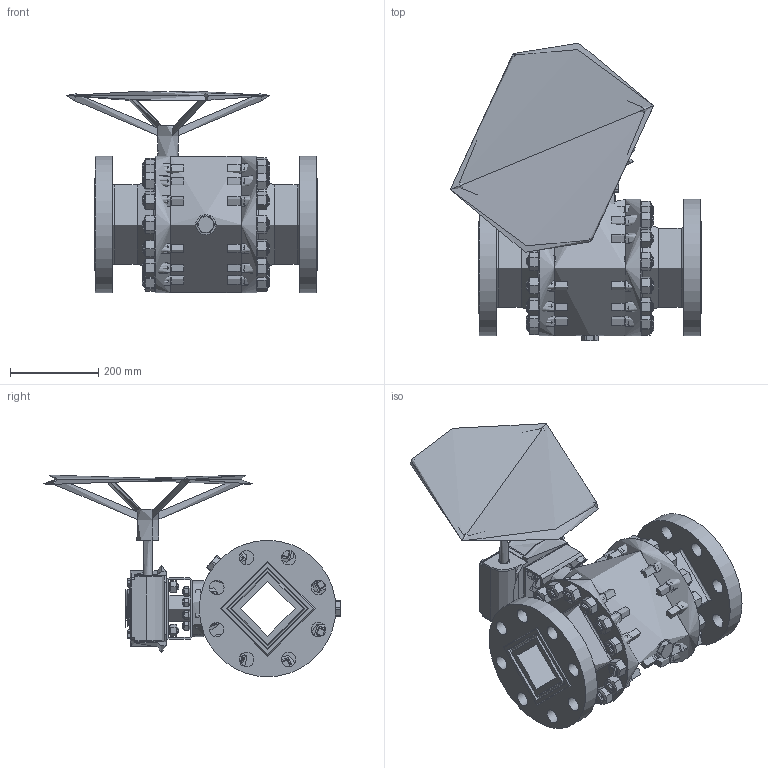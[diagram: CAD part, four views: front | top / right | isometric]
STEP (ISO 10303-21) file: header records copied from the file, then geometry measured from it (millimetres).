
FILE_DESCRIPTION(('STEP AP203'), '1');
FILE_NAME('ZARDP 125.100.27.P.stp', '2013-12-06T13:12:39', ($), ($), 'ASCON STEP Converter 1.3', 'Kompas 3D', '');
FILE_SCHEMA(('CONFIG_CONTROL_DESIGN','SUPPORT_RESOURCE_SCHEMA'));
Length unit declared in the file: millimetre
Products named in the file (1): 53
Bounding box: 571.06 x 675.28 x 458 mm (x, y, z)
Topology: 86 solids, 87 shells, 2897 faces, 6937 edges, 4353 vertices
Faces by surface type: plane 1440, cylinder 642, cone 540, torus 169, bspline 56, sphere 34, extrusion 16
Full cylindrical faces by diameter (mm): 4.134 x2, 4.2 x2, 6 x1, 6.647 x4, 8 x4, 9 x4, 10 x12, 10.106 x32, 12 x30, 13 x20, 16 x9, 17 x4, 17.294 x8, 18 x12, 20 x14, 20.752 x30, 22 x2, 23.75 x2, 23.752 x2, 24 x63, 26 x32, 27 x2, 33 x16, 43 x1, 44 x1, 46 x2, 48 x1, 48.2 x1, 58 x1, 58.5 x1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
Entity records: 144735 total; most frequent: CARTESIAN_POINT 79601, ORIENTED_EDGE 13710, DIRECTION 13035, EDGE_CURVE 6858, AXIS2_PLACEMENT_3D 5109, VERTEX_POINT 4347, EDGE_LOOP 3262, ADVANCED_FACE 2906
